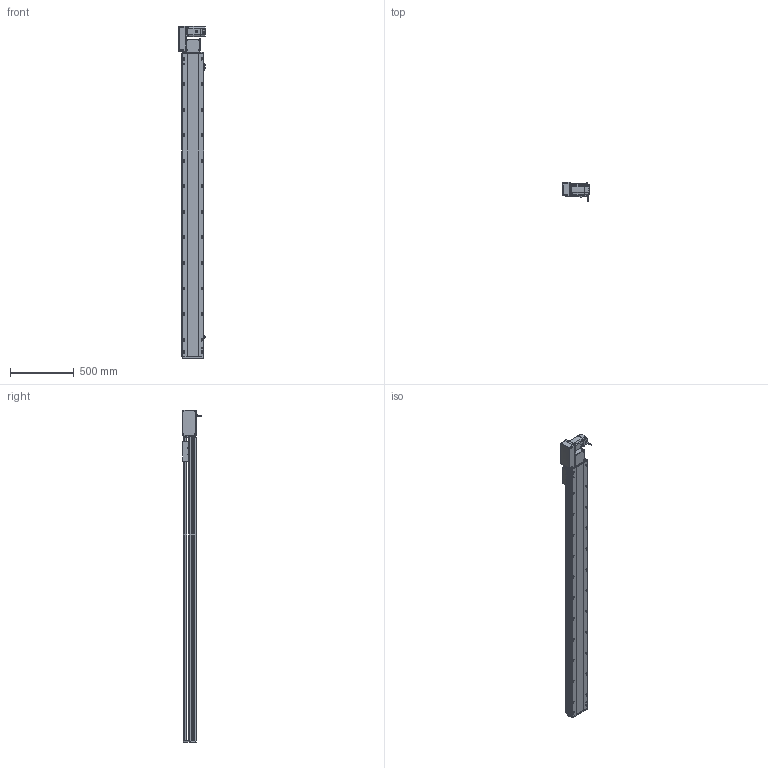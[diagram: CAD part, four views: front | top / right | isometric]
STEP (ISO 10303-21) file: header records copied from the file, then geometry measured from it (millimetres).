
FILE_DESCRIPTION (( 'STEP AP214' ), '1' );
FILE_NAME ('RTB17S-XX-2100-L-M75-C4.STEP', '2025-12-12T00:19:33', ( '' ), ( '' ), 'SwSTEP 2.0', 'SolidWorks 2018', '' );
FILE_SCHEMA (( 'AUTOMOTIVE_DESIGN' ));
Length unit declared in the file: millimetre
Products named in the file (15): RTB17S-L-007奻裔^RTB17S-XX-XX-L-M75-C4; RTB17S-L-004-賑釱^RTB17S-賑釱_RTB17S-XX-XX-L-M75-C4; RTB17S-L-001-耜醱啣^RTB17S-XX-XX-L-M75-C4; RTB17S-賑釱^RTB17S-XX-XX-L-M75-C4; RTB17-R-011菁釱^RTB17S-XX-XX-L-M75-C4; RTB22S-GY-008-M75--萇儂啣^RTB17S-L-々湍釱蚾饜-750W_RTB17S-XX-XX-L-M75-C4; RTB22S-GY-017P^RTB17S-L-々湍釱蚾饜-750W_RTB17S-XX-XX-L-M75-C4; RTH13-BL-012覜茼え俋离^RTB17S-賑釱_RTB17S-XX-XX-L-M75-C4; RTB17S-XX-2100-L-M75-C4; RMP17S-L-014-T20-P75--々湍釱^RTB17S-L-々湍釱蚾饜-750W_RTB17S-XX-XX-L-M75-C4; EE672^RTB17S-XX-XX-L-M75-C4; RTB22S-GY-005P^RTB17S-L-々湍釱蚾饜-750W_RTB17S-XX-XX-L-M75-C4; 750W萇儂^RTB17S-XX-XX-L-M75-C4; RTB17S-L-々湍釱蚾饜-750W^RTB17S-XX-XX-L-M75-C4; RTB22S-GY-018P^RTB17S-L-々湍釱蚾饜-750W_RTB17S-XX-XX-L-M75-C4
Assembly tree (17 placements, depth 3):
  RTB17S-XX-2100-L-M75-C4
    RTB17-R-011菁釱^RTB17S-XX-XX-L-M75-C4
    EE672^RTB17S-XX-XX-L-M75-C4  x3
    RTB17S-L-001-耜醱啣^RTB17S-XX-XX-L-M75-C4
    RTB17S-賑釱^RTB17S-XX-XX-L-M75-C4
      RTB17S-L-004-賑釱^RTB17S-賑釱_RTB17S-XX-XX-L-M75-C4
      RTH13-BL-012覜茼え俋离^RTB17S-賑釱_RTB17S-XX-XX-L-M75-C4
    RTB17S-L-007奻裔^RTB17S-XX-XX-L-M75-C4
    750W萇儂^RTB17S-XX-XX-L-M75-C4
    RTB17S-L-々湍釱蚾饜-750W^RTB17S-XX-XX-L-M75-C4
      RMP17S-L-014-T20-P75--々湍釱^RTB17S-L-々湍釱蚾饜-750W_RTB17S-XX-XX-L-M75-C4
      RTB22S-GY-005P^RTB17S-L-々湍釱蚾饜-750W_RTB17S-XX-XX-L-M75-C4
      RTB22S-GY-017P^RTB17S-L-々湍釱蚾饜-750W_RTB17S-XX-XX-L-M75-C4  x2
      RTB22S-GY-008-M75--萇儂啣^RTB17S-L-々湍釱蚾饜-750W_RTB17S-XX-XX-L-M75-C4
      RTB22S-GY-018P^RTB17S-L-々湍釱蚾饜-750W_RTB17S-XX-XX-L-M75-C4
Bounding box: 210.4 x 152.7 x 2599 mm (x, y, z)
Volume: 19074792.7 mm3; surface area: 3422980.5 mm2
Topology: 17 solids, 17 shells, 2185 faces, 6106 edges, 3950 vertices
Faces by surface type: plane 982, cylinder 787, bspline 294, cone 110, sphere 8, torus 4
Entity records: 62710 total; most frequent: CARTESIAN_POINT 18570, ORIENTED_EDGE 9056, DIRECTION 8402, EDGE_CURVE 4528, AXIS2_PLACEMENT_3D 2970, VERTEX_POINT 2954, LINE 2462, VECTOR 2462
